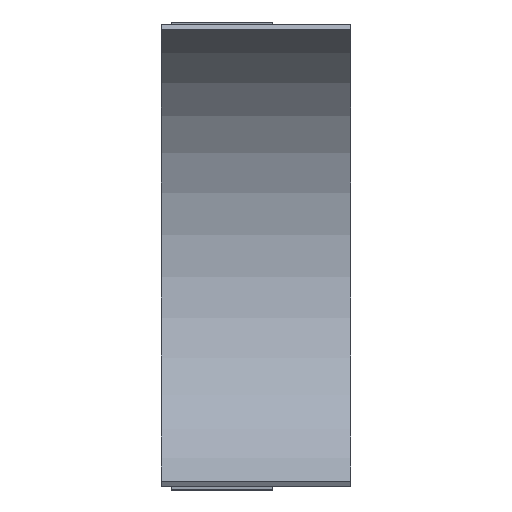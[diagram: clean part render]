
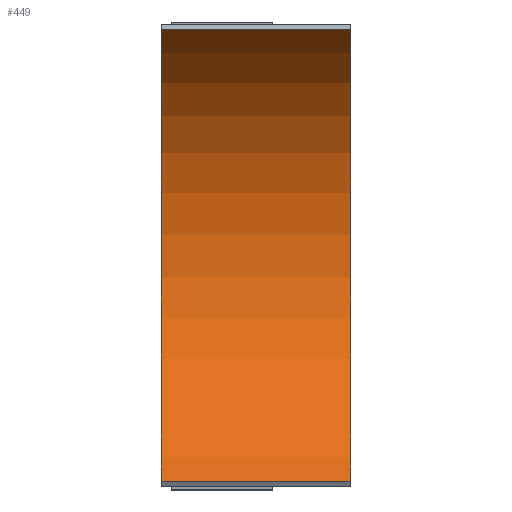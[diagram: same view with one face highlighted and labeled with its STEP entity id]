
A CAD part, top view. The second image highlights one B-rep face of the part: STEP entity #449.
In plain terms, the highlighted cylindrical face has radius 384 mm (diameter 768 mm), a partial arc.
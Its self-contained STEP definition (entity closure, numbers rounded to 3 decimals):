
#53=FACE_OUTER_BOUND('',#77,.T.);
#77=EDGE_LOOP('',(#363,#364,#365,#366));
#123=LINE('',#719,#173);
#124=LINE('',#722,#174);
#173=VECTOR('',#591,10.);
#174=VECTOR('',#594,10.);
#203=CIRCLE('',#502,384.);
#204=CIRCLE('',#503,384.);
#231=VERTEX_POINT('',#715);
#232=VERTEX_POINT('',#716);
#233=VERTEX_POINT('',#718);
#234=VERTEX_POINT('',#720);
#283=EDGE_CURVE('',#231,#232,#203,.T.);
#284=EDGE_CURVE('',#232,#233,#123,.T.);
#285=EDGE_CURVE('',#234,#233,#204,.T.);
#286=EDGE_CURVE('',#231,#234,#124,.T.);
#363=ORIENTED_EDGE('',*,*,#283,.T.);
#364=ORIENTED_EDGE('',*,*,#284,.T.);
#365=ORIENTED_EDGE('',*,*,#285,.F.);
#366=ORIENTED_EDGE('',*,*,#286,.F.);
#435=CYLINDRICAL_SURFACE('',#501,384.);
#449=ADVANCED_FACE('',(#53),#435,.F.);
#501=AXIS2_PLACEMENT_3D('',#714,#587,#588);
#502=AXIS2_PLACEMENT_3D('',#717,#589,#590);
#503=AXIS2_PLACEMENT_3D('',#721,#592,#593);
#587=DIRECTION('center_axis',(1.,0.,0.));
#588=DIRECTION('ref_axis',(0.,-1.,0.));
#589=DIRECTION('center_axis',(-1.,0.,0.));
#590=DIRECTION('ref_axis',(0.,-1.,0.));
#591=DIRECTION('',(1.,0.,0.));
#592=DIRECTION('center_axis',(-1.,0.,0.));
#593=DIRECTION('ref_axis',(0.,-1.,0.));
#594=DIRECTION('',(1.,0.,0.));
#714=CARTESIAN_POINT('Origin',(-90.,0.,600.));
#715=CARTESIAN_POINT('',(-90.,333.097,408.945));
#716=CARTESIAN_POINT('',(-90.,-333.097,408.945));
#717=CARTESIAN_POINT('Origin',(-90.,0.,600.));
#718=CARTESIAN_POINT('',(190.,-333.097,408.945));
#719=CARTESIAN_POINT('',(-90.,-333.097,408.945));
#720=CARTESIAN_POINT('',(190.,333.097,408.945));
#721=CARTESIAN_POINT('Origin',(190.,0.,600.));
#722=CARTESIAN_POINT('',(-90.,333.097,408.945));
